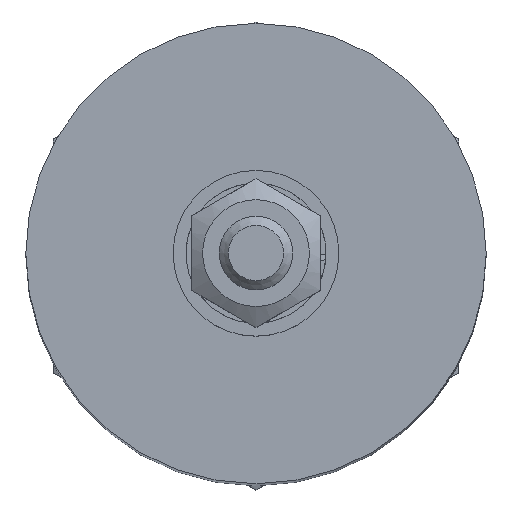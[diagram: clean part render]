
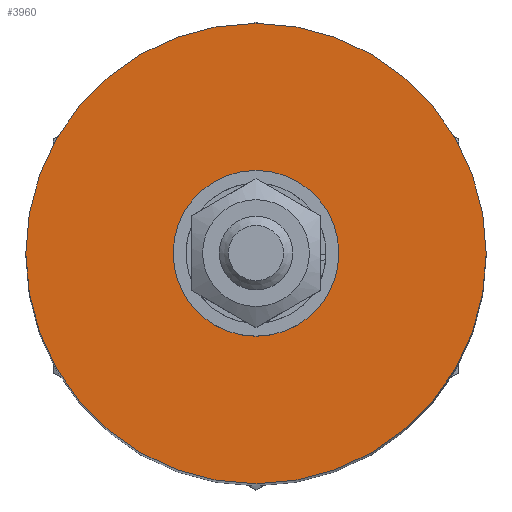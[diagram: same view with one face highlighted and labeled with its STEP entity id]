
A CAD part, top view. The second image highlights one B-rep face of the part: STEP entity #3960.
In plain terms, the highlighted planar face has unit normal (0, 0, 1).
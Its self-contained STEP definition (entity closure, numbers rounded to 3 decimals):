
#508=CARTESIAN_POINT('',(0.092,3.988,69.0));
#509=VERTEX_POINT('',#508);
#510=CARTESIAN_POINT('',(3.408,2.074,69.0));
#511=VERTEX_POINT('',#510);
#512=CARTESIAN_POINT('',(0.092,3.988,69.0));
#513=DIRECTION('',(0.866,-0.5,0.0));
#514=VECTOR('',#513,3.828);
#515=LINE('',#512,#514);
#516=EDGE_CURVE('',#509,#511,#515,.T.);
#585=CARTESIAN_POINT('',(-3.408,2.074,69.));
#586=VERTEX_POINT('',#585);
#587=CARTESIAN_POINT('',(-0.092,3.988,69.));
#588=VERTEX_POINT('',#587);
#589=CARTESIAN_POINT('',(-3.408,2.074,69.0));
#590=DIRECTION('',(0.866,0.5,0.0));
#591=VECTOR('',#590,3.828);
#592=LINE('',#589,#591);
#593=EDGE_CURVE('',#586,#588,#592,.T.);
#653=CARTESIAN_POINT('',(-3.5,-1.914,69.0));
#654=VERTEX_POINT('',#653);
#655=CARTESIAN_POINT('',(-3.5,1.914,69.0));
#656=VERTEX_POINT('',#655);
#657=CARTESIAN_POINT('',(-3.5,-1.914,69.0));
#658=DIRECTION('',(0.0,1.0,0.0));
#659=VECTOR('',#658,3.828);
#660=LINE('',#657,#659);
#661=EDGE_CURVE('',#654,#656,#660,.T.);
#721=CARTESIAN_POINT('',(-3.408,-2.074,69.0));
#722=VERTEX_POINT('',#721);
#723=CARTESIAN_POINT('',(0.,0.,69.0));
#724=DIRECTION('',(0.0,0.0,-1.0));
#725=DIRECTION('',(0.0,1.0,0.0));
#726=AXIS2_PLACEMENT_3D('',#723,#724,#725);
#727=CIRCLE('',#726,3.989);
#728=EDGE_CURVE('',#722,#654,#727,.T.);
#752=CARTESIAN_POINT('',(0.,0.,69.0));
#753=DIRECTION('',(0.0,0.0,-1.0));
#754=DIRECTION('',(0.0,1.0,0.0));
#755=AXIS2_PLACEMENT_3D('',#752,#753,#754);
#756=CIRCLE('',#755,3.989);
#757=EDGE_CURVE('',#656,#586,#756,.T.);
#769=CARTESIAN_POINT('',(0.092,-3.988,69.0));
#770=VERTEX_POINT('',#769);
#771=CARTESIAN_POINT('',(-0.092,-3.988,69.0));
#772=VERTEX_POINT('',#771);
#773=CARTESIAN_POINT('',(0.,0.,69.0));
#774=DIRECTION('',(0.0,0.0,-1.0));
#775=DIRECTION('',(0.0,1.0,0.0));
#776=AXIS2_PLACEMENT_3D('',#773,#774,#775);
#777=CIRCLE('',#776,3.989);
#778=EDGE_CURVE('',#770,#772,#777,.T.);
#816=CARTESIAN_POINT('',(0.,0.,69.0));
#817=DIRECTION('',(0.0,0.0,-1.0));
#818=DIRECTION('',(0.0,1.0,0.0));
#819=AXIS2_PLACEMENT_3D('',#816,#817,#818);
#820=CIRCLE('',#819,3.989);
#821=EDGE_CURVE('',#588,#509,#820,.T.);
#833=CARTESIAN_POINT('',(3.5,-1.914,69.0));
#834=VERTEX_POINT('',#833);
#835=CARTESIAN_POINT('',(3.408,-2.074,69.0));
#836=VERTEX_POINT('',#835);
#837=CARTESIAN_POINT('',(0.,0.,69.0));
#838=DIRECTION('',(0.0,0.0,-1.0));
#839=DIRECTION('',(0.0,1.0,0.0));
#840=AXIS2_PLACEMENT_3D('',#837,#838,#839);
#841=CIRCLE('',#840,3.989);
#842=EDGE_CURVE('',#834,#836,#841,.T.);
#965=CARTESIAN_POINT('',(3.5,1.914,69.0));
#966=VERTEX_POINT('',#965);
#967=CARTESIAN_POINT('',(0.,0.,69.0));
#968=DIRECTION('',(0.0,0.0,-1.0));
#969=DIRECTION('',(0.0,1.0,0.0));
#970=AXIS2_PLACEMENT_3D('',#967,#968,#969);
#971=CIRCLE('',#970,3.989);
#972=EDGE_CURVE('',#511,#966,#971,.T.);
#996=CARTESIAN_POINT('',(3.5,1.914,69.0));
#997=DIRECTION('',(0.0,-1.0,0.0));
#998=VECTOR('',#997,3.828);
#999=LINE('',#996,#998);
#1000=EDGE_CURVE('',#966,#834,#999,.T.);
#1020=CARTESIAN_POINT('',(-0.092,-3.988,69.0));
#1021=DIRECTION('',(-0.866,0.5,0.0));
#1022=VECTOR('',#1021,3.828);
#1023=LINE('',#1020,#1022);
#1024=EDGE_CURVE('',#772,#722,#1023,.T.);
#1044=CARTESIAN_POINT('',(3.408,-2.074,69.0));
#1045=DIRECTION('',(-0.866,-0.5,0.0));
#1046=VECTOR('',#1045,3.828);
#1047=LINE('',#1044,#1046);
#1048=EDGE_CURVE('',#836,#770,#1047,.T.);
#3763=CARTESIAN_POINT('',(12.5,0.,69.0));
#3764=VERTEX_POINT('',#3763);
#3765=CARTESIAN_POINT('',(0.0,0.0,69.0));
#3766=DIRECTION('',(0.0,0.0,1.0));
#3767=DIRECTION('',(-1.0,0.0,0.0));
#3768=AXIS2_PLACEMENT_3D('',#3765,#3766,#3767);
#3769=CIRCLE('',#3768,12.5);
#3770=EDGE_CURVE('',#3764,#3764,#3769,.T.);
#3938=CARTESIAN_POINT('',(0.,0.,69.0));
#3939=DIRECTION('',(0.0,0.0,1.0));
#3940=DIRECTION('',(1.0,0.0,0.0));
#3941=AXIS2_PLACEMENT_3D('',#3938,#3939,#3940);
#3942=PLANE('',#3941);
#3943=ORIENTED_EDGE('',*,*,#3770,.T.);
#3944=EDGE_LOOP('',(#3943));
#3945=FACE_OUTER_BOUND('',#3944,.T.);
#3946=ORIENTED_EDGE('',*,*,#728,.T.);
#3947=ORIENTED_EDGE('',*,*,#661,.T.);
#3948=ORIENTED_EDGE('',*,*,#757,.T.);
#3949=ORIENTED_EDGE('',*,*,#593,.T.);
#3950=ORIENTED_EDGE('',*,*,#821,.T.);
#3951=ORIENTED_EDGE('',*,*,#516,.T.);
#3952=ORIENTED_EDGE('',*,*,#972,.T.);
#3953=ORIENTED_EDGE('',*,*,#1000,.T.);
#3954=ORIENTED_EDGE('',*,*,#842,.T.);
#3955=ORIENTED_EDGE('',*,*,#1048,.T.);
#3956=ORIENTED_EDGE('',*,*,#778,.T.);
#3957=ORIENTED_EDGE('',*,*,#1024,.T.);
#3958=EDGE_LOOP('',(#3946,#3947,#3948,#3949,#3950,#3951,#3952,#3953,#3954,#3955,#3956,#3957));
#3959=FACE_BOUND('',#3958,.T.);
#3960=ADVANCED_FACE('',(#3945,#3959),#3942,.T.);
